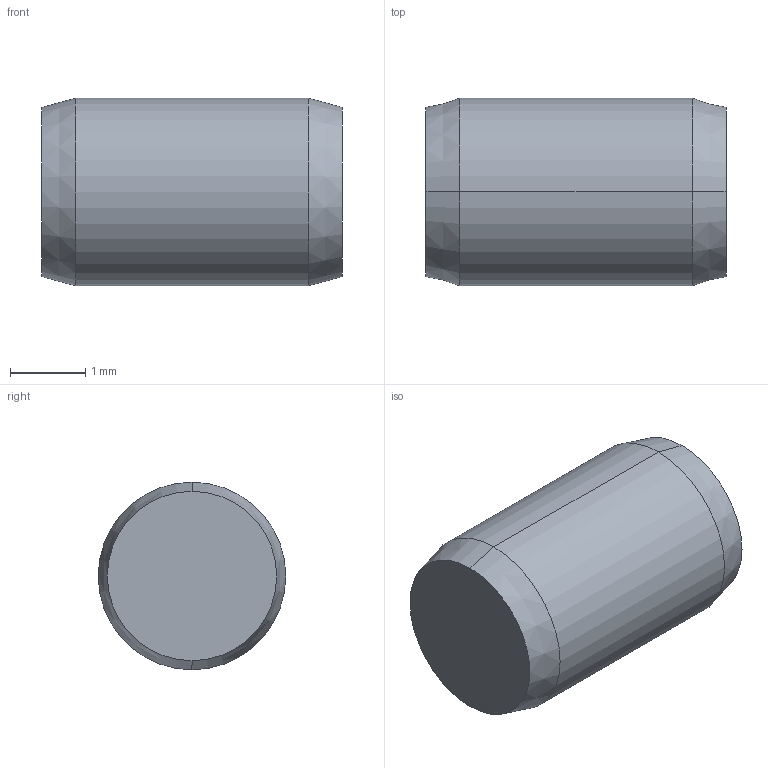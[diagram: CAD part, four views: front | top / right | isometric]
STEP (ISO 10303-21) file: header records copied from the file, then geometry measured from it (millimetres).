
FILE_DESCRIPTION (( 'STEP AP203' ), '1' );
FILE_NAME ('P1206.025-004 .step', '2017-06-14T07:58:43', ( 'User' ), ( '' ), 'SwSTEP 2.0', 'SolidWorks 2009', '' );
FILE_SCHEMA (( 'CONFIG_CONTROL_DESIGN' ));
Length unit declared in the file: millimetre
Products named in the file (1): P1206.025-004 
Bounding box: 4 x 2.5 x 2.5 mm (x, y, z)
Volume: 19.2 mm3; surface area: 39.3 mm2
Topology: 1 solids, 1 shells, 8 faces, 14 edges, 8 vertices
Faces by surface type: cone 4, cylinder 2, plane 2
Entity records: 271 total; most frequent: DIRECTION 40, CARTESIAN_POINT 31, ORIENTED_EDGE 28, AXIS2_PLACEMENT_3D 17, EDGE_CURVE 14, ADVANCED_FACE 8, EDGE_LOOP 8, VERTEX_POINT 8
